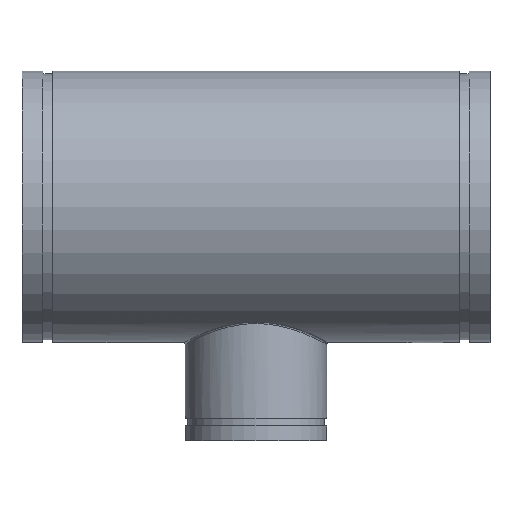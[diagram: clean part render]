
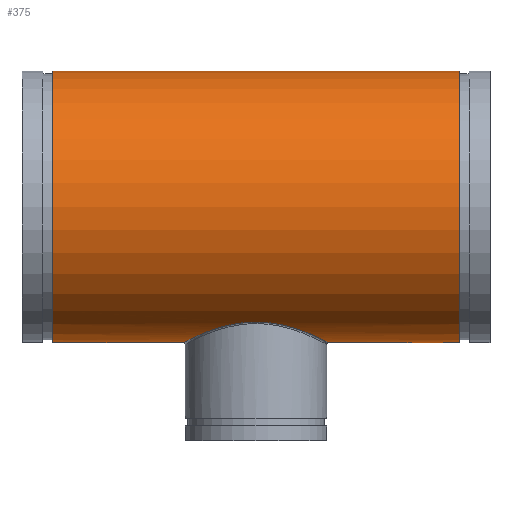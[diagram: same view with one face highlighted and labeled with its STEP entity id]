
A CAD part, top view. The second image highlights one B-rep face of the part: STEP entity #375.
In plain terms, the highlighted cylindrical face has radius 220.98 mm (diameter 441.96 mm), a full revolution.
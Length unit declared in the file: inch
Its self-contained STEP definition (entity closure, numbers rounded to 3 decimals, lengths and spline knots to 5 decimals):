
#54=FACE_BOUND('',#119,.T.);
#65=LINE('',#819,#76);
#76=VECTOR('',#483,8.7);
#87=CYLINDRICAL_SURFACE('',#415,8.7);
#98=FACE_OUTER_BOUND('',#118,.T.);
#118=EDGE_LOOP('',(#266,#267,#268,#269));
#119=EDGE_LOOP('',(#270));
#150=B_SPLINE_CURVE_WITH_KNOTS('',3,(#787,#788,#789,#790,#791,#792,#793,
#794,#795,#796,#797,#798,#799,#800,#801,#802,#803,#804,#805,#806,#807,#808,
#809,#810,#811,#812,#813,#814),.UNSPECIFIED.,.T.,.F.,(4,1,1,1,1,1,1,1,1,
1,1,1,1,1,1,1,1,1,1,1,1,1,1,1,1,4),(-70.8238,-68.29438,
-65.76496,-60.70612,-57.33355,-55.64727,
-53.96099,-52.27471,-50.58843,-47.21587,
-43.84331,-40.47074,-37.09818,-35.4119,
-33.72562,-30.35306,-26.9805,-23.60793,
-20.23537,-17.70595,-16.86281,-13.49025,
-10.11769,-5.05884,-2.52942,0.),.UNSPECIFIED.);
#154=CIRCLE('',#416,8.7);
#155=CIRCLE('',#417,8.7);
#182=VERTEX_POINT('',#751);
#185=VERTEX_POINT('',#816);
#186=VERTEX_POINT('',#818);
#219=EDGE_CURVE('',#182,#182,#150,.T.);
#220=EDGE_CURVE('',#185,#185,#154,.T.);
#221=EDGE_CURVE('',#185,#186,#65,.T.);
#222=EDGE_CURVE('',#186,#186,#155,.T.);
#266=ORIENTED_EDGE('',*,*,#220,.T.);
#267=ORIENTED_EDGE('',*,*,#221,.T.);
#268=ORIENTED_EDGE('',*,*,#222,.T.);
#269=ORIENTED_EDGE('',*,*,#221,.F.);
#270=ORIENTED_EDGE('',*,*,#219,.F.);
#375=ADVANCED_FACE('',(#98,#54),#87,.T.);
#415=AXIS2_PLACEMENT_3D('',#815,#479,#480);
#416=AXIS2_PLACEMENT_3D('',#817,#481,#482);
#417=AXIS2_PLACEMENT_3D('',#820,#484,#485);
#479=DIRECTION('center_axis',(-1.,0.,0.));
#480=DIRECTION('ref_axis',(0.,-1.,0.));
#481=DIRECTION('center_axis',(1.,0.,0.));
#482=DIRECTION('ref_axis',(0.,-1.,0.));
#483=DIRECTION('',(1.,0.,0.));
#484=DIRECTION('center_axis',(-1.,0.,0.));
#485=DIRECTION('ref_axis',(0.,-1.,0.));
#751=CARTESIAN_POINT('',(0.,-7.3943,-4.58414));
#787=CARTESIAN_POINT('Ctrl Pts',(0.,-7.3943,
-4.58414));
#788=CARTESIAN_POINT('Ctrl Pts',(0.35477,-7.3943,-4.58414));
#789=CARTESIAN_POINT('Ctrl Pts',(1.06399,-7.44513,-4.50343));
#790=CARTESIAN_POINT('Ctrl Pts',(2.38504,-7.71812,-4.03789));
#791=CARTESIAN_POINT('Ctrl Pts',(3.55979,-8.16796,-3.1101));
#792=CARTESIAN_POINT('Ctrl Pts',(4.26507,-8.50423,-1.92549));
#793=CARTESIAN_POINT('Ctrl Pts',(4.54647,-8.64631,-1.04255));
#794=CARTESIAN_POINT('Ctrl Pts',(4.65451,-8.70237,-0.35109));
#795=CARTESIAN_POINT('Ctrl Pts',(4.65444,-8.70222,0.35098));
#796=CARTESIAN_POINT('Ctrl Pts',(4.5106,-8.62796,1.27356));
#797=CARTESIAN_POINT('Ctrl Pts',(4.0724,-8.4068,2.34995));
#798=CARTESIAN_POINT('Ctrl Pts',(3.20667,-8.02497,3.40952));
#799=CARTESIAN_POINT('Ctrl Pts',(2.0707,-7.63998,4.18013));
#800=CARTESIAN_POINT('Ctrl Pts',(0.94642,-7.42731,4.53074));
#801=CARTESIAN_POINT('Ctrl Pts',(-0.00003,-7.38337,
4.60191));
#802=CARTESIAN_POINT('Ctrl Pts',(-0.94637,-7.42731,4.53074));
#803=CARTESIAN_POINT('Ctrl Pts',(-2.07065,-7.63999,4.18013));
#804=CARTESIAN_POINT('Ctrl Pts',(-3.20673,-8.02496,3.40954));
#805=CARTESIAN_POINT('Ctrl Pts',(-4.07233,-8.40676,2.34999));
#806=CARTESIAN_POINT('Ctrl Pts',(-4.55464,-8.65029,1.16594));
#807=CARTESIAN_POINT('Ctrl Pts',(-4.66349,-8.70694,0.23317));
#808=CARTESIAN_POINT('Ctrl Pts',(-4.62769,-8.6886,-0.69956));
#809=CARTESIAN_POINT('Ctrl Pts',(-4.38299,-8.56065,-1.72825));
#810=CARTESIAN_POINT('Ctrl Pts',(-3.55954,-8.1677,-3.10996));
#811=CARTESIAN_POINT('Ctrl Pts',(-2.38515,-7.71824,-4.03797));
#812=CARTESIAN_POINT('Ctrl Pts',(-1.06394,-7.44508,-4.5034));
#813=CARTESIAN_POINT('Ctrl Pts',(-0.35477,-7.3943,-4.58414));
#814=CARTESIAN_POINT('Ctrl Pts',(0.,-7.3943,
-4.58414));
#815=CARTESIAN_POINT('Origin',(15.,0.,0.));
#816=CARTESIAN_POINT('',(-13.035,8.7,0.));
#817=CARTESIAN_POINT('Origin',(-13.035,0.,0.));
#818=CARTESIAN_POINT('',(13.035,8.7,0.));
#819=CARTESIAN_POINT('',(15.,8.7,0.));
#820=CARTESIAN_POINT('Origin',(13.035,0.,0.));
